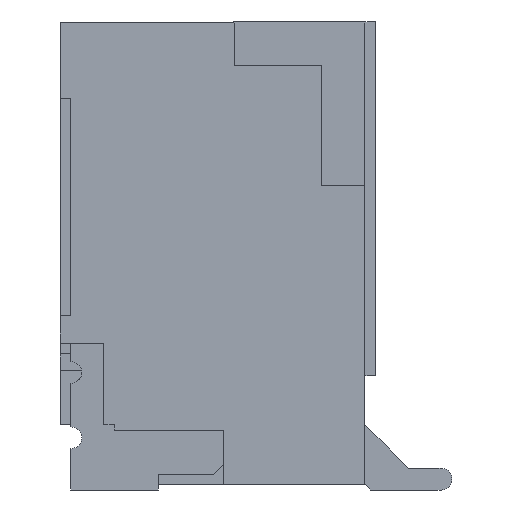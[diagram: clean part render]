
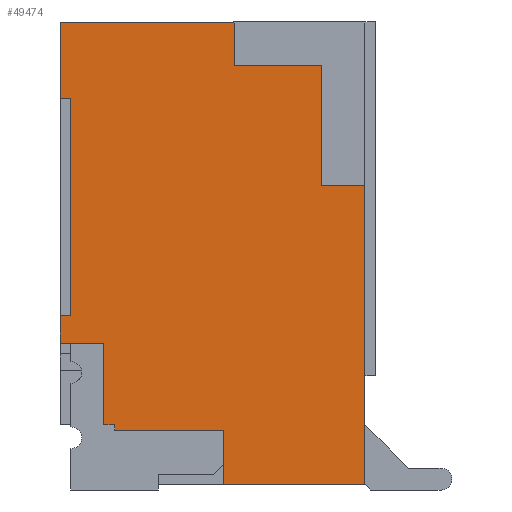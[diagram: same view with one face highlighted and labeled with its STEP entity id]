
A CAD part, left-side view. The second image highlights one B-rep face of the part: STEP entity #49474.
In plain terms, the highlighted planar face has unit normal (-1, 0, 0).
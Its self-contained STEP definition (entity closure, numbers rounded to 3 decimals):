
#62=DIRECTION('',(0.,0.,-1.));
#63=VECTOR('',#62,0.7);
#64=CARTESIAN_POINT('',(0.,3.6,0.));
#65=LINE('',#64,#63);
#78=DIRECTION('',(0.,0.,-1.));
#79=VECTOR('',#78,0.25);
#80=CARTESIAN_POINT('',(0.,3.6,-2.7));
#81=LINE('',#80,#79);
#17749=DIRECTION('',(0.,-1.,0.));
#17750=VECTOR('',#17749,0.4);
#17751=CARTESIAN_POINT('',(0.,3.6,-2.95));
#17752=LINE('',#17751,#17750);
#17781=DIRECTION('',(0.,0.,1.));
#17782=VECTOR('',#17781,2.);
#17783=CARTESIAN_POINT('',(0.,3.5,-2.7));
#17784=LINE('',#17783,#17782);
#17785=DIRECTION('',(0.,1.,0.));
#17786=VECTOR('',#17785,0.1);
#17787=CARTESIAN_POINT('',(0.,3.5,-0.7));
#17788=LINE('',#17787,#17786);
#17789=DIRECTION('',(0.,-1.,0.));
#17790=VECTOR('',#17789,1.6);
#17791=CARTESIAN_POINT('',(0.,3.6,0.));
#17792=LINE('',#17791,#17790);
#17793=DIRECTION('',(0.,0.,-1.));
#17794=VECTOR('',#17793,0.4);
#17795=CARTESIAN_POINT('',(0.,2.,0.));
#17796=LINE('',#17795,#17794);
#17797=DIRECTION('',(0.,-1.,0.));
#17798=VECTOR('',#17797,0.8);
#17799=CARTESIAN_POINT('',(0.,2.,-0.4));
#17800=LINE('',#17799,#17798);
#17801=DIRECTION('',(0.,0.,-1.));
#17802=VECTOR('',#17801,1.1);
#17803=CARTESIAN_POINT('',(0.,1.2,-0.4));
#17804=LINE('',#17803,#17802);
#17805=DIRECTION('',(0.,-1.,0.));
#17806=VECTOR('',#17805,0.4);
#17807=CARTESIAN_POINT('',(0.,1.2,-1.5));
#17808=LINE('',#17807,#17806);
#17809=DIRECTION('',(0.,0.,-1.));
#17810=VECTOR('',#17809,2.75);
#17811=CARTESIAN_POINT('',(0.,0.8,-1.5));
#17812=LINE('',#17811,#17810);
#17813=DIRECTION('',(0.,1.,0.));
#17814=VECTOR('',#17813,1.3);
#17815=CARTESIAN_POINT('',(0.,0.8,-4.25));
#17816=LINE('',#17815,#17814);
#17817=DIRECTION('',(0.,0.,1.));
#17818=VECTOR('',#17817,0.5);
#17819=CARTESIAN_POINT('',(0.,2.1,-4.25));
#17820=LINE('',#17819,#17818);
#17821=DIRECTION('',(0.,1.,0.));
#17822=VECTOR('',#17821,1.);
#17823=CARTESIAN_POINT('',(0.,2.1,-3.75));
#17824=LINE('',#17823,#17822);
#17825=DIRECTION('',(0.,0.,1.));
#17826=VECTOR('',#17825,0.05);
#17827=CARTESIAN_POINT('',(0.,3.1,-3.75));
#17828=LINE('',#17827,#17826);
#17829=DIRECTION('',(0.,-1.,0.));
#17830=VECTOR('',#17829,0.1);
#17831=CARTESIAN_POINT('',(0.,3.6,-2.7));
#17832=LINE('',#17831,#17830);
#18142=DIRECTION('',(0.,0.,-1.));
#18143=VECTOR('',#18142,0.75);
#18144=CARTESIAN_POINT('',(0.,3.2,-2.95));
#18145=LINE('',#18144,#18143);
#18190=DIRECTION('',(0.,-1.,0.));
#18191=VECTOR('',#18190,0.1);
#18192=CARTESIAN_POINT('',(0.,3.2,-3.7));
#18193=LINE('',#18192,#18191);
#20746=CARTESIAN_POINT('',(0.,3.6,0.));
#20747=VERTEX_POINT('',#20746);
#20748=CARTESIAN_POINT('',(0.,3.6,-0.7));
#20749=VERTEX_POINT('',#20748);
#20754=CARTESIAN_POINT('',(0.,3.6,-2.7));
#20755=VERTEX_POINT('',#20754);
#20756=CARTESIAN_POINT('',(0.,3.6,-2.95));
#20757=VERTEX_POINT('',#20756);
#21280=CARTESIAN_POINT('',(0.,0.8,-4.25));
#21281=VERTEX_POINT('',#21280);
#21282=CARTESIAN_POINT('',(0.,0.8,-1.5));
#21283=VERTEX_POINT('',#21282);
#21298=CARTESIAN_POINT('',(0.,2.,0.));
#21299=VERTEX_POINT('',#21298);
#23634=CARTESIAN_POINT('',(0.,3.2,-2.95));
#23636=VERTEX_POINT('',#23634);
#23648=CARTESIAN_POINT('',(0.,3.2,-3.7));
#23649=VERTEX_POINT('',#23648);
#23680=CARTESIAN_POINT('',(0.,3.1,-3.7));
#23681=VERTEX_POINT('',#23680);
#23682=CARTESIAN_POINT('',(0.,3.5,-2.7));
#23683=CARTESIAN_POINT('',(0.,3.5,-0.7));
#23684=VERTEX_POINT('',#23682);
#23685=VERTEX_POINT('',#23683);
#23686=CARTESIAN_POINT('',(0.,2.,-0.4));
#23687=VERTEX_POINT('',#23686);
#23688=CARTESIAN_POINT('',(0.,1.2,-0.4));
#23689=VERTEX_POINT('',#23688);
#23690=CARTESIAN_POINT('',(0.,1.2,-1.5));
#23691=VERTEX_POINT('',#23690);
#23692=CARTESIAN_POINT('',(0.,2.1,-4.25));
#23693=VERTEX_POINT('',#23692);
#23694=CARTESIAN_POINT('',(0.,2.1,-3.75));
#23695=VERTEX_POINT('',#23694);
#23696=CARTESIAN_POINT('',(0.,3.1,-3.75));
#23697=VERTEX_POINT('',#23696);
#49437=CARTESIAN_POINT('',(0.,2.2,-2.125));
#49438=DIRECTION('',(1.,0.,0.));
#49439=DIRECTION('',(0.,0.,-1.));
#49440=AXIS2_PLACEMENT_3D('',#49437,#49438,#49439);
#49441=PLANE('',#49440);
#49443=ORIENTED_EDGE('',*,*,#49442,.T.);
#49445=ORIENTED_EDGE('',*,*,#49444,.T.);
#49446=ORIENTED_EDGE('',*,*,#27131,.F.);
#49447=ORIENTED_EDGE('',*,*,#28158,.T.);
#49449=ORIENTED_EDGE('',*,*,#49448,.T.);
#49451=ORIENTED_EDGE('',*,*,#49450,.T.);
#49453=ORIENTED_EDGE('',*,*,#49452,.T.);
#49455=ORIENTED_EDGE('',*,*,#49454,.T.);
#49456=ORIENTED_EDGE('',*,*,#28067,.T.);
#49458=ORIENTED_EDGE('',*,*,#49457,.T.);
#49460=ORIENTED_EDGE('',*,*,#49459,.T.);
#49461=ORIENTED_EDGE('',*,*,#49287,.T.);
#49463=ORIENTED_EDGE('',*,*,#49462,.T.);
#49465=ORIENTED_EDGE('',*,*,#49464,.F.);
#49467=ORIENTED_EDGE('',*,*,#49466,.F.);
#49468=ORIENTED_EDGE('',*,*,#49420,.F.);
#49469=ORIENTED_EDGE('',*,*,#27139,.F.);
#49471=ORIENTED_EDGE('',*,*,#49470,.T.);
#49472=EDGE_LOOP('',(#49443,#49445,#49446,#49447,#49449,#49451,#49453,#49455,
#49456,#49458,#49460,#49461,#49463,#49465,#49467,#49468,#49469,#49471));
#49473=FACE_OUTER_BOUND('',#49472,.F.);
#27131=EDGE_CURVE('',#20747,#20749,#65,.T.);
#27139=EDGE_CURVE('',#20755,#20757,#81,.T.);
#28067=EDGE_CURVE('',#21283,#21281,#17812,.T.);
#28158=EDGE_CURVE('',#20747,#21299,#17792,.T.);
#49287=EDGE_CURVE('',#23695,#23697,#17824,.T.);
#49420=EDGE_CURVE('',#20757,#23636,#17752,.T.);
#49442=EDGE_CURVE('',#23684,#23685,#17784,.T.);
#49444=EDGE_CURVE('',#23685,#20749,#17788,.T.);
#49448=EDGE_CURVE('',#21299,#23687,#17796,.T.);
#49450=EDGE_CURVE('',#23687,#23689,#17800,.T.);
#49452=EDGE_CURVE('',#23689,#23691,#17804,.T.);
#49454=EDGE_CURVE('',#23691,#21283,#17808,.T.);
#49457=EDGE_CURVE('',#21281,#23693,#17816,.T.);
#49459=EDGE_CURVE('',#23693,#23695,#17820,.T.);
#49462=EDGE_CURVE('',#23697,#23681,#17828,.T.);
#49464=EDGE_CURVE('',#23649,#23681,#18193,.T.);
#49466=EDGE_CURVE('',#23636,#23649,#18145,.T.);
#49470=EDGE_CURVE('',#20755,#23684,#17832,.T.);
#49474=ADVANCED_FACE('',(#49473),#49441,.F.);
